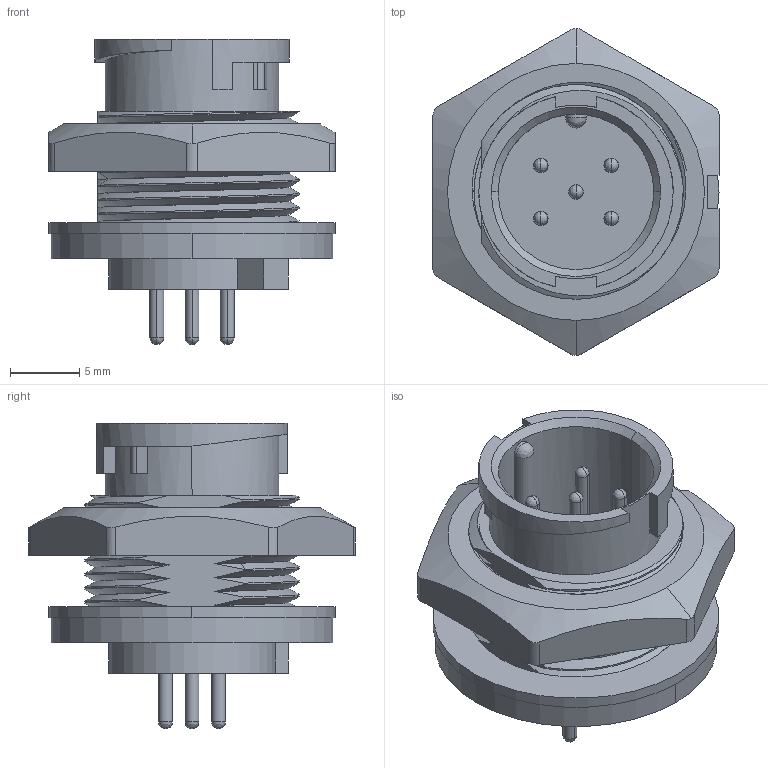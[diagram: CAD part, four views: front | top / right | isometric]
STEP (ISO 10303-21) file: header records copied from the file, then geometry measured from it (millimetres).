
FILE_DESCRIPTION (( 'STEP AP203' ), '1' );
FILE_NAME ('870-005-113R001.STEP', '2024-06-14T18:49:02', ( '' ), ( '' ), 'SwSTEP 2.0', 'SolidWorks 2020', '' );
FILE_SCHEMA (( 'CONFIG_CONTROL_DESIGN' ));
Length unit declared in the file: millimetre
Products named in the file (1): 870-005-113R001
Bounding box: 20.6 x 23.54 x 22 mm (x, y, z)
Volume: 2621.1 mm3; surface area: 3543 mm2
Topology: 2 solids, 2 shells, 252 faces, 654 edges, 390 vertices
Faces by surface type: cylinder 99, bspline 65, plane 53, cone 35
Entity records: 13674 total; most frequent: CARTESIAN_POINT 8153, ORIENTED_EDGE 1224, DIRECTION 977, EDGE_CURVE 612, AXIS2_PLACEMENT_3D 397, VERTEX_POINT 390, EDGE_LOOP 280, FACE_OUTER_BOUND 252
